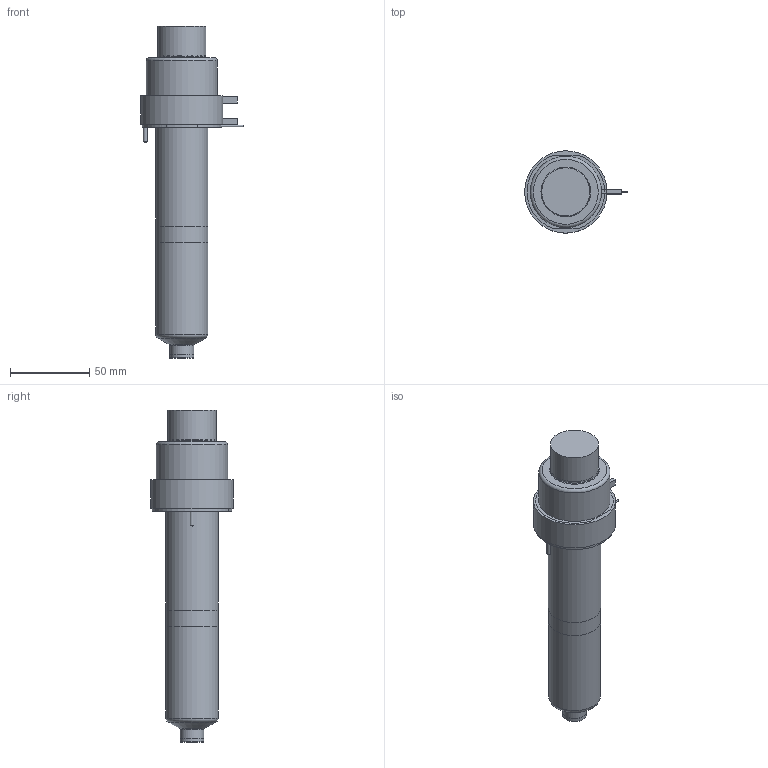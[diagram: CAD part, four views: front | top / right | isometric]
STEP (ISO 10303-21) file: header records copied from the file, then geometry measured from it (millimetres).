
FILE_DESCRIPTION(/* description */ (''),/* implementation_level */ '2;1');
FILE_NAME(/* name */ 'SXTBN-SXIBN-SXOBN19145_250C_b',/* time_stamp */ '2007-01-24T17:16:55+13:00',/* author */ (''),/* organization */ (''),/* preprocessor_version */ 'ST-DEVELOPER v9',/* originating_system */ 'UGS - NX 4.0',/* authorisation */ '');
FILE_SCHEMA (('CONFIG_CONTROL_DESIGN'));
Length unit declared in the file: millimetre
Products named in the file (1): SXTBN-SXIBN-SXOBN19145_250C_b
Bounding box: 64.85 x 52 x 209.68 mm (x, y, z)
Volume: 371918.2 mm3; surface area: 53777.5 mm2
Topology: 7 solids, 7 shells, 92 faces, 180 edges, 116 vertices
Faces by surface type: plane 45, cylinder 28, torus 9, cone 9, bspline 1
Full cylindrical faces by diameter (mm): 1 x3, 1.2 x1, 2.5 x2, 8 x1, 14.61 x1, 15.01 x2, 18.3 x1, 28.6 x1, 30 x1, 30.4 x1, 33 x2, 38.1 x1, 45 x1, 50 x1, 52 x1
Entity records: 2250 total; most frequent: CARTESIAN_POINT 438, DIRECTION 382, ORIENTED_EDGE 268, AXIS2_PLACEMENT_3D 166, EDGE_LOOP 142, EDGE_CURVE 134, VERTEX_POINT 107, ADVANCED_FACE 92
